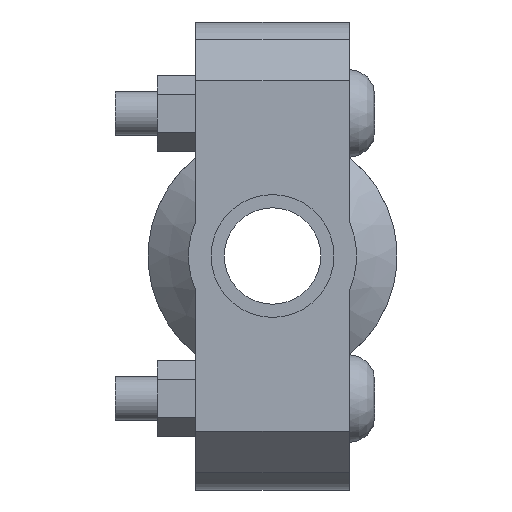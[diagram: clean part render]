
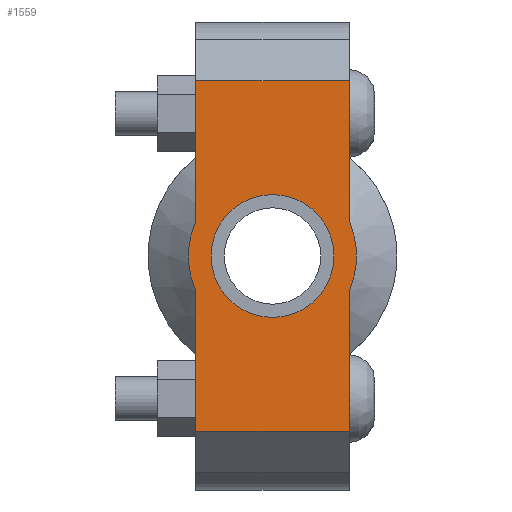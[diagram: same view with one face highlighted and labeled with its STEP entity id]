
A CAD part, left-side view. The second image highlights one B-rep face of the part: STEP entity #1559.
In plain terms, the highlighted planar face has unit normal (-1, 0, 0) as drawn and (0, 0, 1) by its records, which use the part's own axes.
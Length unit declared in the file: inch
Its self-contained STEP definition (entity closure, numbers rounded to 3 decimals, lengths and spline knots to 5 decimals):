
#170=LINE('',#2679,#265);
#185=LINE('',#2738,#280);
#193=LINE('',#2768,#288);
#195=LINE('',#2771,#290);
#196=LINE('',#2776,#291);
#197=LINE('',#2777,#292);
#265=VECTOR('',#2161,0.3937);
#280=VECTOR('',#2196,0.3937);
#288=VECTOR('',#2216,0.3937);
#290=VECTOR('',#2220,0.3937);
#291=VECTOR('',#2225,0.3937);
#292=VECTOR('',#2226,0.3937);
#352=FACE_BOUND('',#511,.T.);
#412=FACE_OUTER_BOUND('',#510,.T.);
#510=EDGE_LOOP('',(#1254,#1255,#1256,#1257,#1258,#1259,#1260,#1261));
#511=EDGE_LOOP('',(#1262));
#616=CIRCLE('',#1822,0.719);
#617=CIRCLE('',#1823,0.719);
#618=CIRCLE('',#1824,0.525);
#725=VERTEX_POINT('',#2676);
#726=VERTEX_POINT('',#2678);
#747=VERTEX_POINT('',#2733);
#748=VERTEX_POINT('',#2737);
#757=VERTEX_POINT('',#2763);
#758=VERTEX_POINT('',#2767);
#759=VERTEX_POINT('',#2773);
#760=VERTEX_POINT('',#2775);
#761=VERTEX_POINT('',#2779);
#895=EDGE_CURVE('',#726,#725,#170,.T.);
#920=EDGE_CURVE('',#748,#747,#185,.T.);
#933=EDGE_CURVE('',#758,#757,#193,.T.);
#935=EDGE_CURVE('',#758,#725,#195,.T.);
#936=EDGE_CURVE('',#757,#759,#616,.T.);
#937=EDGE_CURVE('',#759,#760,#196,.T.);
#938=EDGE_CURVE('',#748,#760,#197,.T.);
#939=EDGE_CURVE('',#747,#726,#617,.T.);
#940=EDGE_CURVE('',#761,#761,#618,.T.);
#1254=ORIENTED_EDGE('',*,*,#935,.F.);
#1255=ORIENTED_EDGE('',*,*,#933,.T.);
#1256=ORIENTED_EDGE('',*,*,#936,.T.);
#1257=ORIENTED_EDGE('',*,*,#937,.T.);
#1258=ORIENTED_EDGE('',*,*,#938,.F.);
#1259=ORIENTED_EDGE('',*,*,#920,.T.);
#1260=ORIENTED_EDGE('',*,*,#939,.T.);
#1261=ORIENTED_EDGE('',*,*,#895,.T.);
#1262=ORIENTED_EDGE('',*,*,#940,.T.);
#1411=PLANE('',#1821);
#1559=ADVANCED_FACE('',(#412,#352),#1411,.T.);
#1821=AXIS2_PLACEMENT_3D('',#2772,#2221,#2222);
#1822=AXIS2_PLACEMENT_3D('',#2774,#2223,#2224);
#1823=AXIS2_PLACEMENT_3D('',#2778,#2227,#2228);
#1824=AXIS2_PLACEMENT_3D('',#2780,#2229,#2230);
#2161=DIRECTION('',(1.,0.,0.));
#2196=DIRECTION('',(1.,0.,0.));
#2216=DIRECTION('',(-1.,0.,0.));
#2220=DIRECTION('',(0.,-1.,0.));
#2221=DIRECTION('center_axis',(0.,0.,1.));
#2222=DIRECTION('ref_axis',(-1.,0.,0.));
#2223=DIRECTION('center_axis',(0.,0.,1.));
#2224=DIRECTION('ref_axis',(1.,0.,0.));
#2225=DIRECTION('',(-1.,0.,0.));
#2226=DIRECTION('',(0.,1.,0.));
#2227=DIRECTION('center_axis',(0.,0.,1.));
#2228=DIRECTION('ref_axis',(1.,0.,0.));
#2229=DIRECTION('center_axis',(0.,0.,-1.));
#2230=DIRECTION('ref_axis',(1.,0.,0.));
#2676=CARTESIAN_POINT('',(1.5,-0.656,0.875));
#2678=CARTESIAN_POINT('',(0.29432,-0.656,0.875));
#2679=CARTESIAN_POINT('',(-2.,-0.656,0.875));
#2733=CARTESIAN_POINT('',(-0.29432,-0.656,0.875));
#2737=CARTESIAN_POINT('',(-1.5,-0.656,0.875));
#2738=CARTESIAN_POINT('',(-2.,-0.656,0.875));
#2763=CARTESIAN_POINT('',(0.29432,0.656,0.875));
#2767=CARTESIAN_POINT('',(1.5,0.656,0.875));
#2768=CARTESIAN_POINT('',(2.,0.656,0.875));
#2771=CARTESIAN_POINT('',(1.5,-0.328,0.875));
#2772=CARTESIAN_POINT('Origin',(0.,0.,
0.875));
#2773=CARTESIAN_POINT('',(-0.29432,0.656,0.875));
#2774=CARTESIAN_POINT('Origin',(0.,0.,0.875));
#2775=CARTESIAN_POINT('',(-1.5,0.656,0.875));
#2776=CARTESIAN_POINT('',(2.,0.656,0.875));
#2777=CARTESIAN_POINT('',(-1.5,0.328,0.875));
#2778=CARTESIAN_POINT('Origin',(0.,0.,0.875));
#2779=CARTESIAN_POINT('',(-0.525,0.,0.875));
#2780=CARTESIAN_POINT('Origin',(0.,0.,0.875));
